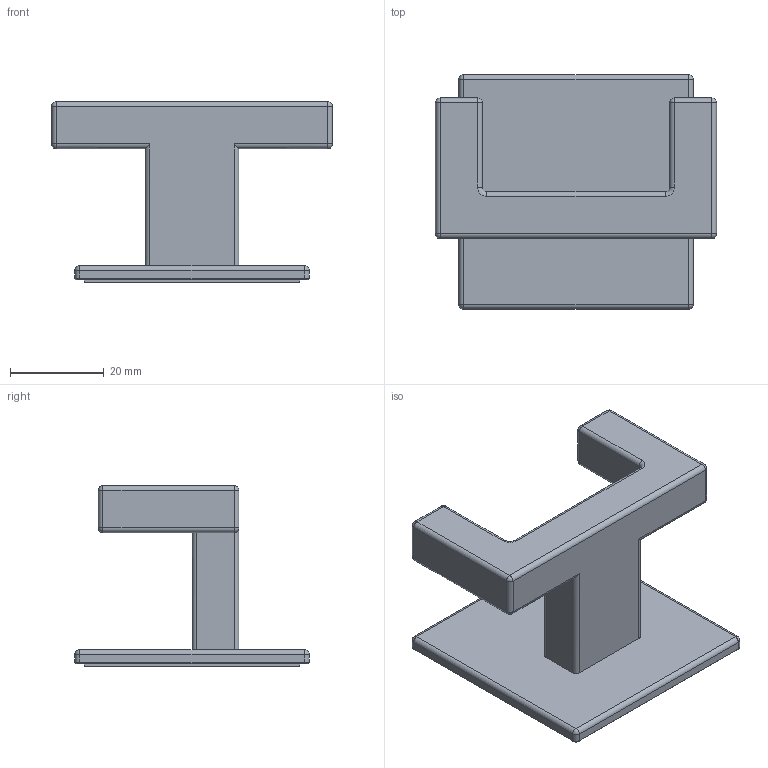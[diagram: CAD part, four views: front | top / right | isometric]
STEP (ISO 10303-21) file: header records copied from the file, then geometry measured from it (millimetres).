
FILE_DESCRIPTION(('Creo Elements/Direct Modeling STEP Export'),'2;1');
FILE_NAME('2331.stp','2017-09-05T14:09:15',(''),(''),'Creo Elements/Direct Modeling STEP processor for AP214 (Solid Model)','Creo Elements/Direct Modeling 20.0 12-Nov-2016 (C) Parametric Technology GmbH','');
FILE_SCHEMA(('AUTOMOTIVE_DESIGN { 1 0 10303 214 1 1 1 1 }'));
Length unit declared in the file: millimetre
Products named in the file (2): Grundplatte
Assembly tree (1 placements, depth 2):
  Grundplatte
    Grundplatte
Bounding box: 60 x 50 x 38.5 mm (x, y, z)
Volume: 23395.2 mm3; surface area: 10626.8 mm2
Topology: 1 solids, 1 shells, 90 faces, 206 edges, 104 vertices
Faces by surface type: cylinder 42, plane 24, sphere 16, torus 8
Entity records: 2372 total; most frequent: DIRECTION 452, ORIENTED_EDGE 380, CARTESIAN_POINT 379, EDGE_CURVE 190, AXIS2_PLACEMENT_3D 177, VERTEX_POINT 104, VECTOR 98, LINE 98
